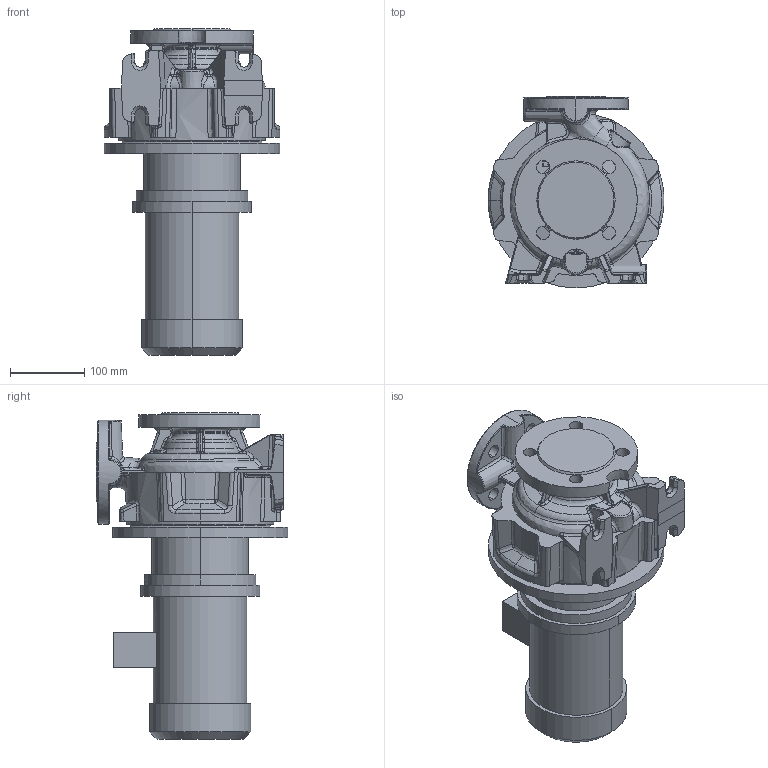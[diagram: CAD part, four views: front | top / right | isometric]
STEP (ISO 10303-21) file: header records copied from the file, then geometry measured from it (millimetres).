
FILE_DESCRIPTION (( 'STEP AP214' ), '1' );
FILE_NAME ('KRM 50-32-125.1-4-0,37.STEP', '2026-04-21T08:32:27', ( '' ), ( '' ), 'SwSTEP 2.0', 'SolidWorks 2016', '' );
FILE_SCHEMA (( 'AUTOMOTIVE_DESIGN' ));
Length unit declared in the file: millimetre
Products named in the file (1): KRM 50-32-125.1-4-0,37
Bounding box: 236.75 x 258 x 439.8 mm (x, y, z)
Volume: 9117690.9 mm3; surface area: 631274.6 mm2
Topology: 5 solids, 5 shells, 830 faces, 2017 edges, 1209 vertices
Faces by surface type: bspline 356, cylinder 189, plane 142, torus 64, cone 58, sphere 21
Entity records: 55005 total; most frequent: CARTESIAN_POINT 29452, ORIENTED_EDGE 4014, DIRECTION 2701, EDGE_CURVE 2007, VERTEX_POINT 1208, AXIS2_PLACEMENT_3D 1145, EDGE_LOOP 867, UNCERTAINTY_MEASURE_WITH_UNIT 837
